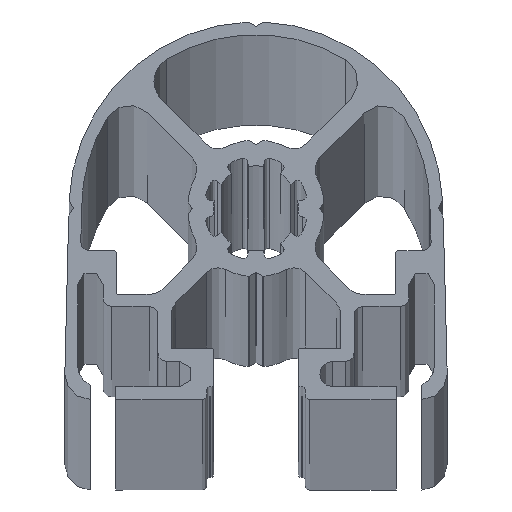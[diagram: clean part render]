
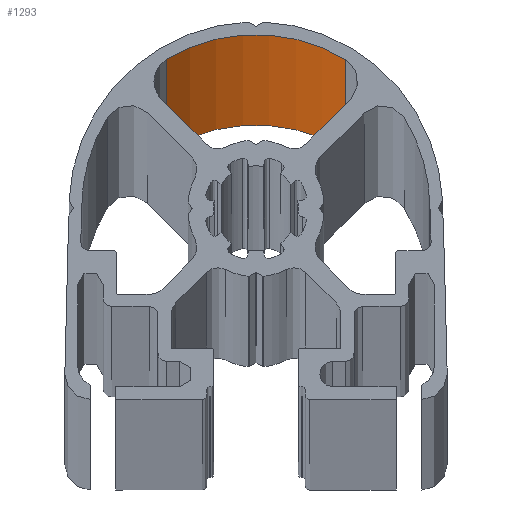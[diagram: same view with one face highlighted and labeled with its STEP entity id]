
A CAD part, top view. The second image highlights one B-rep face of the part: STEP entity #1293.
In plain terms, the highlighted cylindrical face has radius 20.5 mm (diameter 41 mm), a partial arc.
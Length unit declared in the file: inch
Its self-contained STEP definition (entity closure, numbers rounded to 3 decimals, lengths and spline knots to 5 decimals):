
#96 = VERTEX_POINT ( 'NONE', #494 ) ;
#98 = VERTEX_POINT ( 'NONE', #496 ) ;
#439 = VERTEX_POINT ( 'NONE', #3200 ) ;
#441 = VERTEX_POINT ( 'NONE', #3202 ) ;
#494 = CARTESIAN_POINT ( 'NONE',  ( -0.41566, 0.69046, 240.15748 ) ) ;
#496 = CARTESIAN_POINT ( 'NONE',  ( -0.41566, 0.69046, 0. ) ) ;
#559 = EDGE_CURVE ( 'NONE', #96, #98, #2532, .T. ) ;
#859 = EDGE_LOOP ( 'NONE', ( #1879, #1880, #1881, #1882 ) ) ;
#1293 = ADVANCED_FACE ( 'NONE', ( #5346 ), #5353, .F. ) ;
#1459 = EDGE_CURVE ( 'NONE', #441, #439, #5856, .T. ) ;
#1507 = EDGE_CURVE ( 'NONE', #441, #96, #6546, .T. ) ;
#1508 = EDGE_CURVE ( 'NONE', #439, #98, #6548, .T. ) ;
#1879 = ORIENTED_EDGE ( 'NONE', *, *, #1508, .F. ) ;
#1880 = ORIENTED_EDGE ( 'NONE', *, *, #1459, .F. ) ;
#1881 = ORIENTED_EDGE ( 'NONE', *, *, #1507, .T. ) ;
#1882 = ORIENTED_EDGE ( 'NONE', *, *, #559, .T. ) ;
#2528 = VECTOR ( 'NONE', #3298, 39.37008 ) ;
#2532 = LINE ( 'NONE', #3291, #2528 ) ;
#3200 = CARTESIAN_POINT ( 'NONE',  ( 0.41514, 0.68959, 0. ) ) ;
#3202 = CARTESIAN_POINT ( 'NONE',  ( 0.41514, 0.68959, 240.15748 ) ) ;
#3291 = CARTESIAN_POINT ( 'NONE',  ( -0.41566, 0.69046, 240.15748 ) ) ;
#3298 = DIRECTION ( 'NONE',  ( 0., 0., -1. ) ) ;
#4672 = CARTESIAN_POINT ( 'NONE',  ( -0.00098, -0.00195, 240.15748 ) ) ;
#4674 = DIRECTION ( 'NONE',  ( -1., 0., 0. ) ) ;
#4675 = DIRECTION ( 'NONE',  ( 0., 0., -1. ) ) ;
#5346 = FACE_OUTER_BOUND ( 'NONE', #859, .T. ) ;
#5353 = CYLINDRICAL_SURFACE ( 'NONE', #5444, 0.80709 ) ;
#5444 = AXIS2_PLACEMENT_3D ( 'NONE', #4672, #4675, #4674 ) ;
#5562 = AXIS2_PLACEMENT_3D ( 'NONE', #6078, #6087, #6088 ) ;
#5563 = AXIS2_PLACEMENT_3D ( 'NONE', #6081, #6084, #6085 ) ;
#5849 = VECTOR ( 'NONE', #5967, 39.37008 ) ;
#5856 = LINE ( 'NONE', #5958, #5849 ) ;
#5958 = CARTESIAN_POINT ( 'NONE',  ( 0.41514, 0.68959, 240.15748 ) ) ;
#5967 = DIRECTION ( 'NONE',  ( 0., 0., -1. ) ) ;
#6078 = CARTESIAN_POINT ( 'NONE',  ( -0.00098, -0.00195, 0. ) ) ;
#6081 = CARTESIAN_POINT ( 'NONE',  ( -0.00098, -0.00195, 240.15748 ) ) ;
#6084 = DIRECTION ( 'NONE',  ( 0., 0., 1. ) ) ;
#6085 = DIRECTION ( 'NONE',  ( 1., 0., 0. ) ) ;
#6087 = DIRECTION ( 'NONE',  ( 0., 0., 1. ) ) ;
#6088 = DIRECTION ( 'NONE',  ( 1., 0., 0. ) ) ;
#6546 = CIRCLE ( 'NONE', #5563, 0.80709 ) ;
#6548 = CIRCLE ( 'NONE', #5562, 0.80709 ) ;
